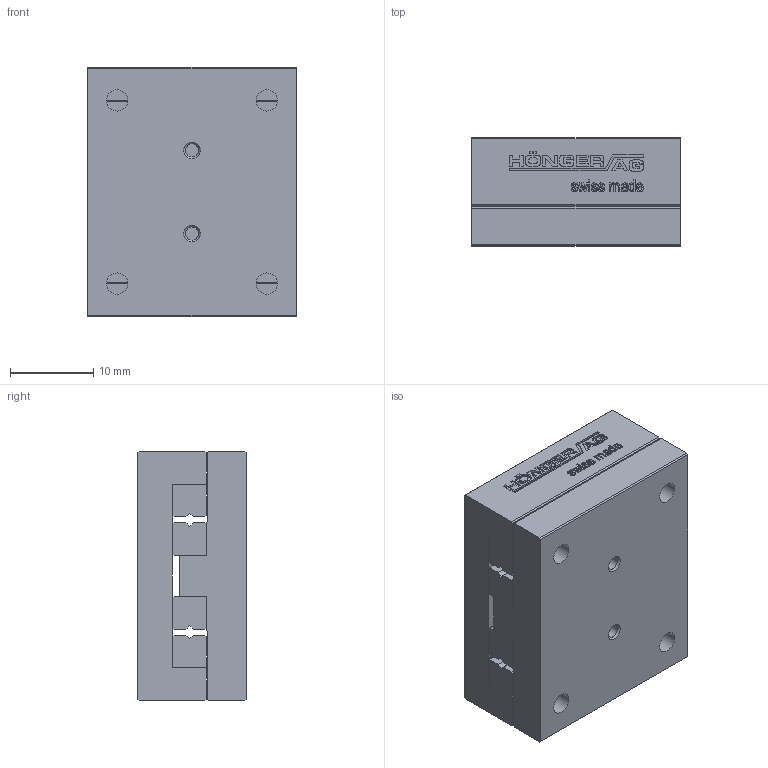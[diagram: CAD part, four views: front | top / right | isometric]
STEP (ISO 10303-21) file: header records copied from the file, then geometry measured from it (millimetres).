
FILE_DESCRIPTION(/* description */ ('STEP AP214'),/* implementation_level */ '2;1');
FILE_NAME(/* name */ 'NKL 1-25(0)',/* time_stamp */ '2025-04-23T07:56:03+02:00',/* author */ ('License CC BY-ND 4.0'),/* organization */ ('CADENAS'),/* preprocessor_version */ 'ST-DEVELOPER v19.3',/* originating_system */ 'PARTsolutions',/* authorisation */ ' ');
FILE_SCHEMA (('AUTOMOTIVE_DESIGN {1 0 10303 214 3 1 1}'));
Length unit declared in the file: millimetre
Products named in the file (3): NKL 1-25(0); NKL 1-25_1; NKL 1-25_2
Assembly tree (2 placements, depth 2):
  NKL 1-25(0)
    NKL 1-25_1
    NKL 1-25_2
Bounding box: 25 x 13 x 30 mm (x, y, z)
Volume: 9194.8 mm3; surface area: 5923.6 mm2
Topology: 2 solids, 2 shells, 599 faces, 1650 edges, 1092 vertices
Faces by surface type: cylinder 304, plane 287, cone 8
Full cylindrical faces by diameter (mm): 1.567 x4, 2.55 x4, 4.3 x4
Entity records: 19227 total; most frequent: DIRECTION 3450, CARTESIAN_POINT 3324, ORIENTED_EDGE 3260, EDGE_CURVE 1630, AXIS2_PLACEMENT_3D 1218, VERTEX_POINT 1092, LINE 1014, VECTOR 1014
